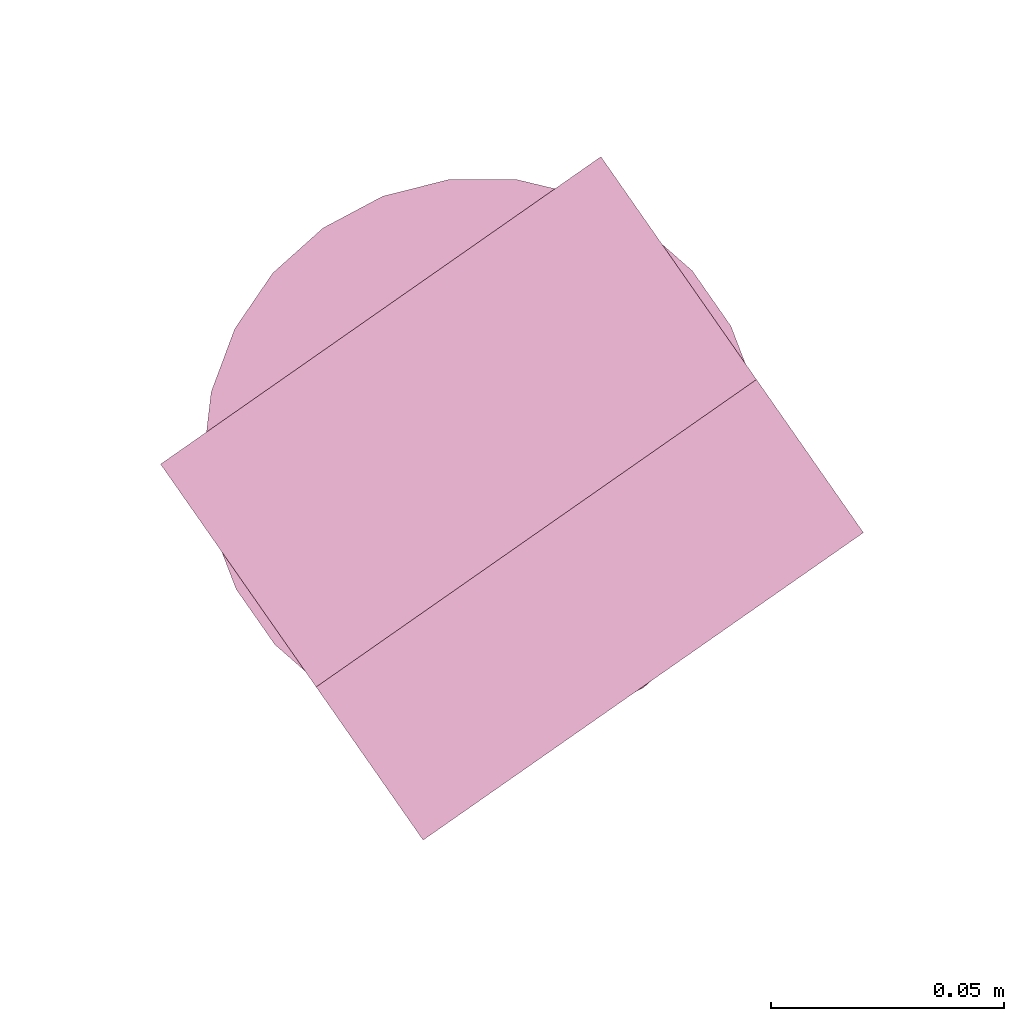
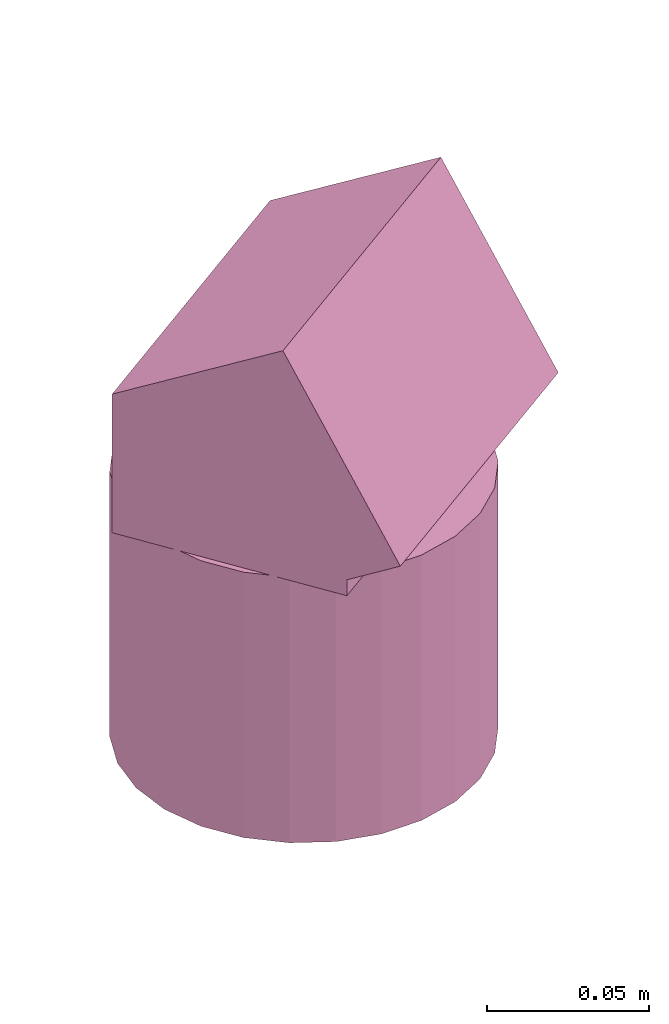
# One storey, part 7 of 10: 1 furnishing.
"""IFC2X3 building model written with IfcOpenShell, lengths in metres."""

from ifc_helpers import new_model, entity, si_unit, converted_unit, derived_unit, direction, frame, frame_2d, origin, place, context, subcontext, project, spatial, polyline, circle, outline, extrude, source, transform, mapped, material, material_list, type_object, type_shapes, element, save


model = new_model("IFC2X3")

# Units and contexts
model_context = context("Model", 3, precision=1e-05, world=origin(), true_north=direction((6.123031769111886e-17, 1.0)))
body_context = subcontext(model_context, "Body", "Model", "MODEL_VIEW")
ifc_project = project(units=[si_unit("LENGTHUNIT", "METRE"), si_unit("AREAUNIT", "SQUARE_METRE"), si_unit("VOLUMEUNIT", "CUBIC_METRE"), converted_unit("PLANEANGLEUNIT", "DEGREE", entity("IfcRatioMeasure", 0.017453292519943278), si_unit("PLANEANGLEUNIT", "RADIAN"), dimensions=[0, 0, 0, 0, 0, 0, 0]), si_unit("MASSUNIT", "GRAM", prefix="KILO"), derived_unit("MASSDENSITYUNIT", [(si_unit("MASSUNIT", "GRAM", prefix="KILO"), 1), (si_unit("LENGTHUNIT", "METRE"), -3)]), derived_unit("IONCONCENTRATIONUNIT", [(si_unit("MASSUNIT", "GRAM", prefix="KILO"), 1), (si_unit("LENGTHUNIT", "METRE"), -3)]), derived_unit("MOMENTOFINERTIAUNIT", [(si_unit("LENGTHUNIT", "METRE"), 4)]), si_unit("TIMEUNIT", "SECOND"), si_unit("FREQUENCYUNIT", "HERTZ"), si_unit("THERMODYNAMICTEMPERATUREUNIT", "DEGREE_CELSIUS"), derived_unit("THERMALTRANSMITTANCEUNIT", [(si_unit("MASSUNIT", "GRAM", prefix="KILO"), 1), (si_unit("THERMODYNAMICTEMPERATUREUNIT", "KELVIN"), -1), (si_unit("TIMEUNIT", "SECOND"), -3)]), derived_unit("THERMALCONDUCTANCEUNIT", [(si_unit("MASSUNIT", "GRAM", prefix="KILO"), 1), (si_unit("THERMODYNAMICTEMPERATUREUNIT", "KELVIN"), -1), (si_unit("TIMEUNIT", "SECOND"), -3), (si_unit("LENGTHUNIT", "METRE"), 1)]), derived_unit("VOLUMETRICFLOWRATEUNIT", [(si_unit("LENGTHUNIT", "METRE"), 3), (si_unit("TIMEUNIT", "SECOND"), -1)]), derived_unit("MASSFLOWRATEUNIT", [(si_unit("MASSUNIT", "GRAM", prefix="KILO"), 1), (si_unit("TIMEUNIT", "SECOND"), -1)]), derived_unit("ROTATIONALFREQUENCYUNIT", [(si_unit("TIMEUNIT", "SECOND"), -1)]), si_unit("ELECTRICCURRENTUNIT", "AMPERE"), si_unit("ELECTRICVOLTAGEUNIT", "VOLT"), si_unit("POWERUNIT", "WATT"), si_unit("FORCEUNIT", "NEWTON", prefix="KILO"), si_unit("ILLUMINANCEUNIT", "LUX"), si_unit("LUMINOUSFLUXUNIT", "LUMEN"), si_unit("LUMINOUSINTENSITYUNIT", "CANDELA"), derived_unit("USERDEFINED", [(si_unit("MASSUNIT", "GRAM", prefix="KILO"), -1), (si_unit("LENGTHUNIT", "METRE"), -2), (si_unit("TIMEUNIT", "SECOND"), 3), (si_unit("LUMINOUSFLUXUNIT", "LUMEN"), 1)]), derived_unit("USERDEFINED", [(si_unit("MASSUNIT", "GRAM", prefix="KILO"), 1), (si_unit("TIMEUNIT", "SECOND"), -3), (si_unit("LENGTHUNIT", "METRE"), 3), (si_unit("ELECTRICCURRENTUNIT", "AMPERE"), -2)]), derived_unit("SOUNDPOWERUNIT", [(si_unit("MASSUNIT", "GRAM", prefix="KILO"), 1), (si_unit("TIMEUNIT", "SECOND"), -3), (si_unit("LENGTHUNIT", "METRE"), 2)]), derived_unit("SOUNDPRESSUREUNIT", [(si_unit("MASSUNIT", "GRAM", prefix="KILO"), 1), (si_unit("LENGTHUNIT", "METRE"), -1), (si_unit("TIMEUNIT", "SECOND"), -2)]), derived_unit("LINEARVELOCITYUNIT", [(si_unit("LENGTHUNIT", "METRE"), 1), (si_unit("TIMEUNIT", "SECOND"), -1)]), si_unit("PRESSUREUNIT", "PASCAL"), derived_unit("USERDEFINED", [(si_unit("MASSUNIT", "GRAM", prefix="KILO"), 1), (si_unit("LENGTHUNIT", "METRE"), -2), (si_unit("TIMEUNIT", "SECOND"), -2)]), derived_unit("LINEARFORCEUNIT", [(si_unit("MASSUNIT", "GRAM", prefix="KILO"), 1), (si_unit("TIMEUNIT", "SECOND"), -2)]), derived_unit("PLANARFORCEUNIT", [(si_unit("MASSUNIT", "GRAM", prefix="KILO"), 1), (si_unit("LENGTHUNIT", "METRE"), -1), (si_unit("TIMEUNIT", "SECOND"), -2)]), derived_unit("SPECIFICHEATCAPACITYUNIT", [(si_unit("THERMODYNAMICTEMPERATUREUNIT", "KELVIN"), -1), (si_unit("LENGTHUNIT", "METRE"), 2), (si_unit("TIMEUNIT", "SECOND"), -2)]), derived_unit("HEATINGVALUEUNIT", [(si_unit("LENGTHUNIT", "METRE"), 2), (si_unit("TIMEUNIT", "SECOND"), -2)]), derived_unit("VAPORPERMEABILITYUNIT", [(si_unit("LENGTHUNIT", "METRE"), -1), (si_unit("TIMEUNIT", "SECOND"), 1)]), derived_unit("DYNAMICVISCOSITYUNIT", [(si_unit("MASSUNIT", "GRAM", prefix="KILO"), 1), (si_unit("TIMEUNIT", "SECOND"), -1), (si_unit("LENGTHUNIT", "METRE"), -1)]), derived_unit("THERMALEXPANSIONCOEFFICIENTUNIT", [(si_unit("THERMODYNAMICTEMPERATUREUNIT", "KELVIN"), -1)]), derived_unit("MODULUSOFELASTICITYUNIT", [(si_unit("MASSUNIT", "GRAM", prefix="KILO"), 1), (si_unit("LENGTHUNIT", "METRE"), -1), (si_unit("TIMEUNIT", "SECOND"), -2)]), derived_unit("ISOTHERMALMOISTURECAPACITYUNIT", [(si_unit("LENGTHUNIT", "METRE"), 3), (si_unit("MASSUNIT", "GRAM", prefix="KILO"), -1)]), derived_unit("MOISTUREDIFFUSIVITYUNIT", [(si_unit("TIMEUNIT", "SECOND"), -1), (si_unit("LENGTHUNIT", "METRE"), 2)])], contexts=[model_context])

# Site, building, storey
site_placement = place(None, origin())
site = spatial("IfcSite", under=ifc_project, at=site_placement, Name="Default", CompositionType="ELEMENT")
building_placement = place(site_placement, origin())
building = spatial("IfcBuilding", under=site, at=building_placement, Name="Projeto", CompositionType="ELEMENT")
storey_placement = place(building_placement, frame((0.0, 0.0, -2.581035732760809)))
storey = spatial("IfcBuildingStorey", under=building, at=storey_placement, Name="Nível 9", CompositionType="ELEMENT", Elevation=-2.581035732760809)

# Furnishing
ifc_material_1 = material(Name="Aço")
ifc_material_2 = material(Name="<Unnamed>")
ifc_material_list = material_list([ifc_material_1, ifc_material_2])
furniture_type = type_object("IfcFurnitureType", Name="Iluminação de chão:Iluminação de chão", material=ifc_material_list)
shared_shape = source(origin(), body_context, "Body", "SweptSolid", [
    extrude(outline(polyline([(-0.026756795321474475, -0.05273292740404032), (0.025445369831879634, -0.05273292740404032), (0.05904645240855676, 0.0054658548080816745), (-0.010235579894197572, 0.04546585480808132), (-0.02074265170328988, 0.027267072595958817), (-0.02675679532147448, 0.027267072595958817), (-0.026756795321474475, -0.05273292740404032)])), frame((0.014277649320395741, -0.05750000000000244, 0.026756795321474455), z_axis=(0.0, 1.0, 0.0), x_axis=(0.0, 0.0, 1.0)), (0.0, 0.0, 1.0), 0.11499999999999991),
    extrude(circle(Radius=0.059999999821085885, at=frame_2d((1.4775496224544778e-22, -9.693267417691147e-17), x_axis=(1.0, 0.0))), frame((0.0, 0.0, -0.10000000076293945)), (0.0, 0.0, 1.0), 0.10000000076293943),
])
type_shapes(furniture_type, [shared_shape])
furnishing_placement = place(storey_placement, frame((7.020440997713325, 23.591611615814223, -0.01896426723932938), z_axis=(0.0, 0.0, 1.0), x_axis=(0.572490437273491, -0.8199113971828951, 0.0)))
element("IfcFurnishingElement", 1, at=furnishing_placement, inside=storey, type_object=furniture_type, material=ifc_material_list, Name="Iluminação de chão:Iluminação de chão", ObjectType="Iluminação de chão:Iluminação de chão", context=body_context, shape_type="MappedRepresentation", body=[
    mapped(shared_shape, transform((0.0, 0.0, 0.0), scale=1.0)),
])

save(model, "model.ifc")
